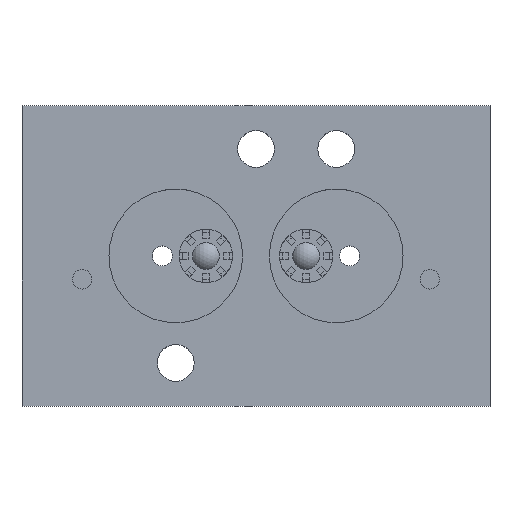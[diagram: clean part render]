
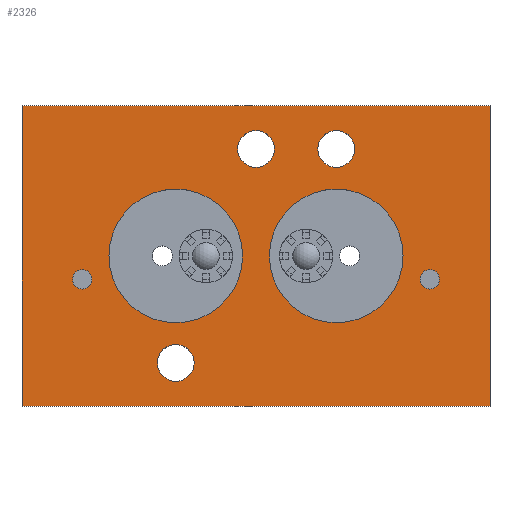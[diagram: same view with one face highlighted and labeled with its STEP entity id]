
A CAD part, top view. The second image highlights one B-rep face of the part: STEP entity #2326.
In plain terms, the highlighted planar face has unit normal (0, 0, 1).
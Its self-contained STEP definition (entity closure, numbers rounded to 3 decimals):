
#24=FACE_BOUND('',#800,.T.);
#25=FACE_BOUND('',#801,.T.);
#26=FACE_BOUND('',#802,.T.);
#27=FACE_BOUND('',#803,.T.);
#28=FACE_BOUND('',#804,.T.);
#29=FACE_BOUND('',#805,.T.);
#30=FACE_BOUND('',#806,.T.);
#53=PLANE('',#2575);
#238=LINE('',#3773,#477);
#245=LINE('',#3793,#484);
#249=LINE('',#3800,#488);
#251=LINE('',#3803,#490);
#477=VECTOR('',#3035,45.);
#484=VECTOR('',#3052,45.);
#488=VECTOR('',#3058,70.);
#490=VECTOR('',#3062,70.);
#673=FACE_OUTER_BOUND('',#799,.T.);
#799=EDGE_LOOP('',(#1876,#1877,#1878,#1879));
#800=EDGE_LOOP('',(#1880));
#801=EDGE_LOOP('',(#1881));
#802=EDGE_LOOP('',(#1882));
#803=EDGE_LOOP('',(#1883));
#804=EDGE_LOOP('',(#1884));
#805=EDGE_LOOP('',(#1885));
#806=EDGE_LOOP('',(#1886));
#910=CIRCLE('',#2449,2.75);
#912=CIRCLE('',#2452,2.75);
#914=CIRCLE('',#2455,2.75);
#916=CIRCLE('',#2458,1.45);
#918=CIRCLE('',#2461,1.45);
#1000=CIRCLE('',#2552,10.);
#1002=CIRCLE('',#2555,10.);
#1023=VERTEX_POINT('',#3387);
#1025=VERTEX_POINT('',#3393);
#1027=VERTEX_POINT('',#3399);
#1029=VERTEX_POINT('',#3405);
#1031=VERTEX_POINT('',#3411);
#1145=VERTEX_POINT('',#3657);
#1147=VERTEX_POINT('',#3663);
#1188=VERTEX_POINT('',#3771);
#1189=VERTEX_POINT('',#3772);
#1196=VERTEX_POINT('',#3791);
#1197=VERTEX_POINT('',#3792);
#1253=EDGE_CURVE('',#1023,#1023,#910,.T.);
#1256=EDGE_CURVE('',#1025,#1025,#912,.T.);
#1259=EDGE_CURVE('',#1027,#1027,#914,.T.);
#1262=EDGE_CURVE('',#1029,#1029,#916,.T.);
#1265=EDGE_CURVE('',#1031,#1031,#918,.T.);
#1388=EDGE_CURVE('',#1145,#1145,#1000,.T.);
#1391=EDGE_CURVE('',#1147,#1147,#1002,.T.);
#1450=EDGE_CURVE('',#1188,#1189,#238,.T.);
#1459=EDGE_CURVE('',#1196,#1197,#245,.T.);
#1463=EDGE_CURVE('',#1189,#1196,#249,.T.);
#1465=EDGE_CURVE('',#1197,#1188,#251,.T.);
#1876=ORIENTED_EDGE('',*,*,#1459,.T.);
#1877=ORIENTED_EDGE('',*,*,#1465,.T.);
#1878=ORIENTED_EDGE('',*,*,#1450,.T.);
#1879=ORIENTED_EDGE('',*,*,#1463,.T.);
#1880=ORIENTED_EDGE('',*,*,#1253,.F.);
#1881=ORIENTED_EDGE('',*,*,#1256,.F.);
#1882=ORIENTED_EDGE('',*,*,#1259,.F.);
#1883=ORIENTED_EDGE('',*,*,#1262,.F.);
#1884=ORIENTED_EDGE('',*,*,#1265,.F.);
#1885=ORIENTED_EDGE('',*,*,#1388,.F.);
#1886=ORIENTED_EDGE('',*,*,#1391,.F.);
#2326=ADVANCED_FACE('',(#673,#24,#25,#26,#27,#28,#29,#30),#53,.F.);
#2449=AXIS2_PLACEMENT_3D('',#3389,#2699,#2700);
#2452=AXIS2_PLACEMENT_3D('',#3395,#2706,#2707);
#2455=AXIS2_PLACEMENT_3D('',#3401,#2713,#2714);
#2458=AXIS2_PLACEMENT_3D('',#3407,#2720,#2721);
#2461=AXIS2_PLACEMENT_3D('',#3413,#2727,#2728);
#2552=AXIS2_PLACEMENT_3D('',#3659,#2950,#2951);
#2555=AXIS2_PLACEMENT_3D('',#3665,#2957,#2958);
#2575=AXIS2_PLACEMENT_3D('',#3806,#3066,#3067);
#2699=DIRECTION('center_axis',(0.,0.,1.));
#2700=DIRECTION('ref_axis',(1.,0.,0.));
#2706=DIRECTION('center_axis',(0.,0.,1.));
#2707=DIRECTION('ref_axis',(1.,0.,0.));
#2713=DIRECTION('center_axis',(0.,0.,1.));
#2714=DIRECTION('ref_axis',(1.,0.,0.));
#2720=DIRECTION('center_axis',(0.,0.,1.));
#2721=DIRECTION('ref_axis',(1.,0.,0.));
#2727=DIRECTION('center_axis',(0.,0.,1.));
#2728=DIRECTION('ref_axis',(1.,0.,0.));
#2950=DIRECTION('center_axis',(0.,0.,1.));
#2951=DIRECTION('ref_axis',(1.,0.,0.));
#2957=DIRECTION('center_axis',(0.,0.,1.));
#2958=DIRECTION('ref_axis',(1.,0.,0.));
#3035=DIRECTION('',(0.,1.,0.));
#3052=DIRECTION('',(0.,-1.,0.));
#3058=DIRECTION('',(-1.,0.,0.));
#3062=DIRECTION('',(1.,0.,0.));
#3066=DIRECTION('center_axis',(0.,0.,-1.));
#3067=DIRECTION('ref_axis',(-1.,0.,0.));
#3387=CARTESIAN_POINT('',(-14.75,-16.,0.));
#3389=CARTESIAN_POINT('Origin',(-12.,-16.,0.));
#3393=CARTESIAN_POINT('',(-2.75,16.,0.));
#3395=CARTESIAN_POINT('Origin',(0.,16.,0.));
#3399=CARTESIAN_POINT('',(9.25,16.,0.));
#3401=CARTESIAN_POINT('Origin',(12.,16.,0.));
#3405=CARTESIAN_POINT('',(-27.45,-3.5,0.));
#3407=CARTESIAN_POINT('Origin',(-26.,-3.5,0.));
#3411=CARTESIAN_POINT('',(24.55,-3.5,0.));
#3413=CARTESIAN_POINT('Origin',(26.,-3.5,0.));
#3657=CARTESIAN_POINT('',(-22.,0.,0.));
#3659=CARTESIAN_POINT('Origin',(-12.,0.,0.));
#3663=CARTESIAN_POINT('',(2.,0.,0.));
#3665=CARTESIAN_POINT('Origin',(12.,0.,0.));
#3771=CARTESIAN_POINT('',(35.,-22.5,0.));
#3772=CARTESIAN_POINT('',(35.,22.5,0.));
#3773=CARTESIAN_POINT('',(35.,22.5,0.));
#3791=CARTESIAN_POINT('',(-35.,22.5,0.));
#3792=CARTESIAN_POINT('',(-35.,-22.5,0.));
#3793=CARTESIAN_POINT('',(-35.,-22.5,0.));
#3800=CARTESIAN_POINT('',(-35.,22.5,0.));
#3803=CARTESIAN_POINT('',(35.,-22.5,0.));
#3806=CARTESIAN_POINT('Origin',(0.,0.,0.));
